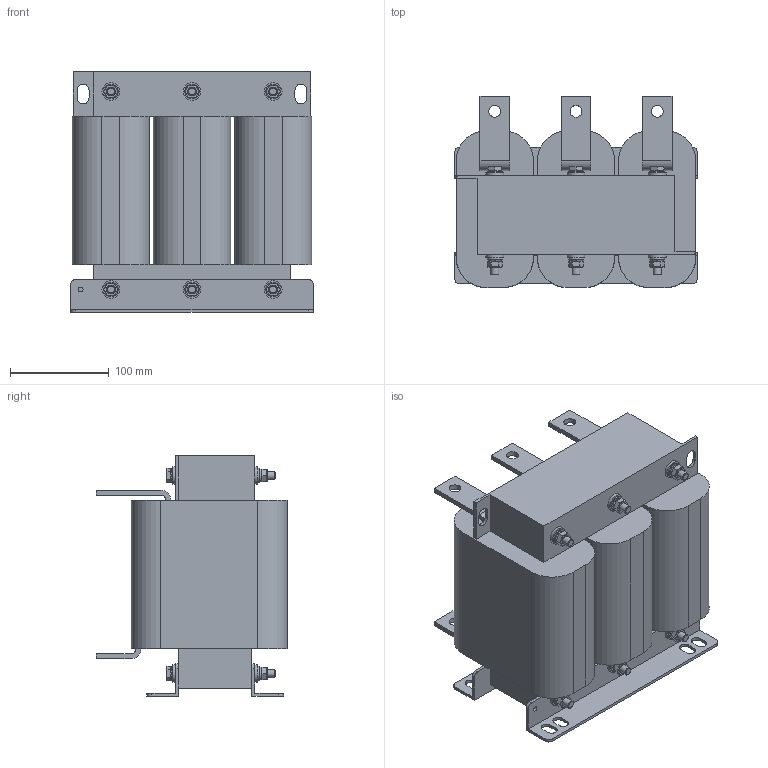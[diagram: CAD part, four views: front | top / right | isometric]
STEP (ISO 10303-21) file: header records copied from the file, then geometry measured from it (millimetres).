
FILE_DESCRIPTION(('STEP AP203'), '1');
FILE_NAME('栖闉罻 _ ISF-185_344-4', '', ('UNSPECIFIED'), ('UNSPECIFIED'), 'ASCON STEP Converter 1.6', 'ASCON Math Kernel', '');
FILE_SCHEMA(('CONFIG_CONTROL_DESIGN'));
Length unit declared in the file: millimetre
Products named in the file (12): ISF-185_344-4
Assembly tree (55 placements, depth 2):
  ISF-185_344-4
    ISF-185_344-4
    ISF-185_344-4  x2
    ISF-185_344-4  x3
    ISF-185_344-4
    ISF-185_344-4  x3
    ISF-185_344-4  x3
    ISF-185_344-4  x12
    ISF-185_344-4  x12
    ISF-185_344-4  x6
    ISF-185_344-4  x6
    ISF-185_344-4  x6
Bounding box: 245 x 193 x 243 mm (x, y, z)
Volume: 6678900.7 mm3; surface area: 507502.3 mm2
Topology: 55 solids, 55 shells, 586 faces, 1248 edges, 778 vertices
Faces by surface type: plane 424, cylinder 132, cone 18, torus 12
Full cylindrical faces by diameter (mm): 5 x2, 8 x48, 12 x6, 15 x12, 18 x12
Entity records: 6320 total; most frequent: CARTESIAN_POINT 1072, DIRECTION 832, ORIENTED_EDGE 666, EDGE_CURVE 333, AXIS2_PLACEMENT_3D 297, LINE 238, VECTOR 238, VERTEX_POINT 227
